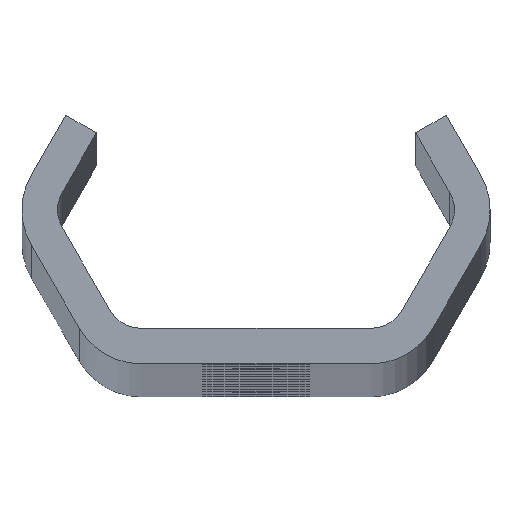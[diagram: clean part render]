
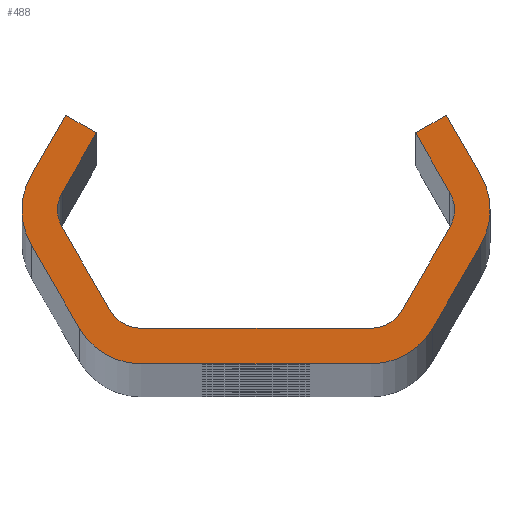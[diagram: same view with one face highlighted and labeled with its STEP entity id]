
A CAD part, top view. The second image highlights one B-rep face of the part: STEP entity #488.
In plain terms, the highlighted planar face has unit normal (0, 0, 1).
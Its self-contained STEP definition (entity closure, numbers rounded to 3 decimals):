
#488=ADVANCED_FACE('NONE',(#1334),#1335,.F.);
#1334=FACE_OUTER_BOUND('',#4210,.T.);
#1335=PLANE('',#4211);
#4210=EDGE_LOOP('',(#8490,#8491,#8492,#8493,#8494,#8495,#8496,#8497,#8498,#8499,#8500,#8501,#8502,#8503,#8504,#8505,#8506,#8507,#8508,#8509,#8510,#8511,#8512,#8513));
#4211=AXIS2_PLACEMENT_3D('',#8514,#8515,#8516);
#8490=ORIENTED_EDGE('',*,*,#11357,.T.);
#8491=ORIENTED_EDGE('',*,*,#11388,.T.);
#8492=ORIENTED_EDGE('',*,*,#11106,.T.);
#8493=ORIENTED_EDGE('',*,*,#11359,.T.);
#8494=ORIENTED_EDGE('',*,*,#11389,.T.);
#8495=ORIENTED_EDGE('',*,*,#11363,.T.);
#8496=ORIENTED_EDGE('',*,*,#11390,.T.);
#8497=ORIENTED_EDGE('',*,*,#11113,.T.);
#8498=ORIENTED_EDGE('',*,*,#11391,.T.);
#8499=ORIENTED_EDGE('',*,*,#10899,.T.);
#8500=ORIENTED_EDGE('',*,*,#11116,.T.);
#8501=ORIENTED_EDGE('',*,*,#11122,.T.);
#8502=ORIENTED_EDGE('',*,*,#11125,.T.);
#8503=ORIENTED_EDGE('',*,*,#11103,.T.);
#8504=ORIENTED_EDGE('',*,*,#11392,.T.);
#8505=ORIENTED_EDGE('',*,*,#11127,.T.);
#8506=ORIENTED_EDGE('',*,*,#11393,.T.);
#8507=ORIENTED_EDGE('',*,*,#11134,.T.);
#8508=ORIENTED_EDGE('',*,*,#11394,.T.);
#8509=ORIENTED_EDGE('',*,*,#11344,.T.);
#8510=ORIENTED_EDGE('',*,*,#11395,.T.);
#8511=ORIENTED_EDGE('',*,*,#10894,.T.);
#8512=ORIENTED_EDGE('',*,*,#11347,.T.);
#8513=ORIENTED_EDGE('',*,*,#11353,.T.);
#8514=CARTESIAN_POINT('',(0.0,0.0,1600.0));
#8515=DIRECTION('',(0.0,0.0,-1.0));
#8516=DIRECTION('',(0.0,-1.0,0.0));
#10894=EDGE_CURVE('NONE',#12156,#12160,#12162,.T.);
#10899=EDGE_CURVE('NONE',#12165,#12169,#12171,.T.);
#11103=EDGE_CURVE('NONE',#12538,#12536,#12539,.T.);
#11106=EDGE_CURVE('NONE',#12542,#12543,#12544,.T.);
#11113=EDGE_CURVE('NONE',#12556,#12554,#12557,.T.);
#11116=EDGE_CURVE('NONE',#12169,#12560,#12561,.T.);
#11122=EDGE_CURVE('NONE',#12560,#12568,#12570,.T.);
#11125=EDGE_CURVE('NONE',#12568,#12538,#12573,.T.);
#11127=EDGE_CURVE('NONE',#12575,#12576,#12577,.T.);
#11134=EDGE_CURVE('NONE',#12589,#12587,#12590,.T.);
#11344=EDGE_CURVE('NONE',#12978,#12976,#12979,.T.);
#11347=EDGE_CURVE('NONE',#12160,#12982,#12983,.T.);
#11353=EDGE_CURVE('NONE',#12982,#12990,#12992,.T.);
#11357=EDGE_CURVE('NONE',#12990,#12996,#12998,.T.);
#11359=EDGE_CURVE('NONE',#12543,#13000,#13001,.T.);
#11363=EDGE_CURVE('NONE',#13006,#13007,#13008,.T.);
#11388=EDGE_CURVE('NONE',#12996,#12542,#13035,.T.);
#11389=EDGE_CURVE('NONE',#13000,#13006,#13036,.T.);
#11390=EDGE_CURVE('NONE',#13007,#12556,#13037,.T.);
#11391=EDGE_CURVE('NONE',#12554,#12165,#13038,.T.);
#11392=EDGE_CURVE('NONE',#12536,#12575,#13039,.T.);
#11393=EDGE_CURVE('NONE',#12576,#12589,#13040,.T.);
#11394=EDGE_CURVE('NONE',#12587,#12978,#13041,.T.);
#11395=EDGE_CURVE('NONE',#12976,#12156,#13042,.T.);
#12156=VERTEX_POINT('',#14028);
#12160=VERTEX_POINT('NONE',#14033);
#12162=CIRCLE('',#14036,3.0);
#12165=VERTEX_POINT('',#14039);
#12169=VERTEX_POINT('NONE',#14044);
#12171=CIRCLE('',#14047,6.0);
#12536=VERTEX_POINT('NONE',#16202);
#12538=VERTEX_POINT('NONE',#16205);
#12539=CIRCLE('',#16206,3.0);
#12542=VERTEX_POINT('NONE',#16210);
#12543=VERTEX_POINT('NONE',#16211);
#12544=CIRCLE('',#16212,6.0);
#12554=VERTEX_POINT('NONE',#16225);
#12556=VERTEX_POINT('NONE',#16228);
#12557=LINE('',#16229,#16230);
#12560=VERTEX_POINT('NONE',#16234);
#12561=LINE('',#16235,#16236);
#12568=VERTEX_POINT('NONE',#16246);
#12570=LINE('',#16249,#16250);
#12573=LINE('',#16254,#16255);
#12575=VERTEX_POINT('NONE',#16257);
#12576=VERTEX_POINT('NONE',#16258);
#12577=LINE('',#16259,#16260);
#12587=VERTEX_POINT('NONE',#16274);
#12589=VERTEX_POINT('NONE',#16277);
#12590=LINE('',#16278,#16279);
#12976=VERTEX_POINT('NONE',#17667);
#12978=VERTEX_POINT('NONE',#17670);
#12979=LINE('',#17671,#17672);
#12982=VERTEX_POINT('NONE',#17676);
#12983=LINE('',#17677,#17678);
#12990=VERTEX_POINT('NONE',#17688);
#12992=LINE('',#17691,#17692);
#12996=VERTEX_POINT('NONE',#17697);
#12998=LINE('',#17700,#17701);
#13000=VERTEX_POINT('NONE',#17703);
#13001=LINE('',#17704,#17705);
#13006=VERTEX_POINT('NONE',#17712);
#13007=VERTEX_POINT('NONE',#17713);
#13008=LINE('',#17714,#17715);
#13035=CIRCLE('',#17745,6.0);
#13036=CIRCLE('',#17746,6.0);
#13037=CIRCLE('',#17747,6.0);
#13038=CIRCLE('',#17748,6.0);
#13039=CIRCLE('',#17749,3.0);
#13040=CIRCLE('',#17750,3.0);
#13041=CIRCLE('',#17751,3.0);
#13042=CIRCLE('',#17752,3.0);
#14028=CARTESIAN_POINT('',(-16.764,0.,1600.0));
#14033=CARTESIAN_POINT('',(-16.362,1.5,1600.0));
#14036=AXIS2_PLACEMENT_3D('',#20991,#20992,#20993);
#14039=CARTESIAN_POINT('',(19.764,0.,1600.0));
#14044=CARTESIAN_POINT('',(18.96,3.,1600.0));
#14047=AXIS2_PLACEMENT_3D('',#20999,#21000,#21001);
#16202=CARTESIAN_POINT('',(16.764,0.,1600.0));
#16205=CARTESIAN_POINT('',(16.362,1.5,1600.0));
#16206=AXIS2_PLACEMENT_3D('',#21206,#21207,#21208);
#16210=CARTESIAN_POINT('',(-19.764,0.,1600.0));
#16211=CARTESIAN_POINT('',(-18.96,-3.,1600.0));
#16212=AXIS2_PLACEMENT_3D('',#21210,#21211,#21212);
#16225=CARTESIAN_POINT('',(18.96,-3.,1600.0));
#16228=CARTESIAN_POINT('',(14.919,-10.,1600.0));
#16229=CARTESIAN_POINT('',(20.692,0.,1600.0));
#16230=VECTOR('',#21220,1000.0);
#16234=CARTESIAN_POINT('',(16.074,8.,1600.0));
#16235=CARTESIAN_POINT('',(16.074,8.,1600.0));
#16236=VECTOR('',#21222,1000.0);
#16246=CARTESIAN_POINT('',(13.475,6.5,1600.0));
#16249=CARTESIAN_POINT('',(13.475,6.5,1600.0));
#16250=VECTOR('',#21227,1000.0);
#16254=CARTESIAN_POINT('',(17.228,0.,1600.0));
#16255=VECTOR('',#21229,1000.0);
#16257=CARTESIAN_POINT('',(16.362,-1.5,1600.0));
#16258=CARTESIAN_POINT('',(12.321,-8.5,1600.0));
#16259=CARTESIAN_POINT('',(11.455,-10.0,1600.0));
#16260=VECTOR('',#21230,1000.0);
#16274=CARTESIAN_POINT('',(-9.723,-10.0,1600.0));
#16277=CARTESIAN_POINT('',(9.723,-10.0,1600.0));
#16278=CARTESIAN_POINT('',(-11.455,-10.0,1600.0));
#16279=VECTOR('',#21236,1000.0);
#17667=CARTESIAN_POINT('',(-16.362,-1.5,1600.0));
#17670=CARTESIAN_POINT('',(-12.321,-8.5,1600.0));
#17671=CARTESIAN_POINT('',(-17.228,0.,1600.0));
#17672=VECTOR('',#21465,1000.0);
#17676=CARTESIAN_POINT('',(-13.475,6.5,1600.0));
#17677=CARTESIAN_POINT('',(-13.475,6.5,1600.0));
#17678=VECTOR('',#21467,1000.0);
#17688=CARTESIAN_POINT('',(-16.074,8.,1600.0));
#17691=CARTESIAN_POINT('',(-13.475,6.5,1600.0));
#17692=VECTOR('',#21472,1000.0);
#17697=CARTESIAN_POINT('',(-18.96,3.,1600.0));
#17700=CARTESIAN_POINT('',(-16.074,8.,1600.0));
#17701=VECTOR('',#21475,1000.0);
#17703=CARTESIAN_POINT('',(-14.919,-10.,1600.0));
#17704=CARTESIAN_POINT('',(-20.692,0.,1600.0));
#17705=VECTOR('',#21476,1000.0);
#17712=CARTESIAN_POINT('',(-9.723,-13.0,1600.0));
#17713=CARTESIAN_POINT('',(9.723,-13.0,1600.0));
#17714=CARTESIAN_POINT('',(-13.187,-13.0,1600.0));
#17715=VECTOR('',#21479,1000.0);
#17745=AXIS2_PLACEMENT_3D('',#21543,#21544,#21545);
#17746=AXIS2_PLACEMENT_3D('',#21546,#21547,#21548);
#17747=AXIS2_PLACEMENT_3D('',#21549,#21550,#21551);
#17748=AXIS2_PLACEMENT_3D('',#21552,#21553,#21554);
#17749=AXIS2_PLACEMENT_3D('',#21555,#21556,#21557);
#17750=AXIS2_PLACEMENT_3D('',#21558,#21559,#21560);
#17751=AXIS2_PLACEMENT_3D('',#21561,#21562,#21563);
#17752=AXIS2_PLACEMENT_3D('',#21564,#21565,#21566);
#20991=CARTESIAN_POINT('',(-13.764,0.,1600.0));
#20992=DIRECTION('',(0.0,0.0,-1.0));
#20993=DIRECTION('',(-1.0,0.0,0.0));
#20999=CARTESIAN_POINT('',(13.764,0.,1600.0));
#21000=DIRECTION('',(0.0,0.0,1.0));
#21001=DIRECTION('',(-1.0,0.0,0.0));
#21206=CARTESIAN_POINT('',(13.764,0.,1600.0));
#21207=DIRECTION('',(0.0,0.0,-1.0));
#21208=DIRECTION('',(-1.0,0.0,0.0));
#21210=CARTESIAN_POINT('',(-13.764,0.,1600.0));
#21211=DIRECTION('',(0.0,0.0,1.0));
#21212=DIRECTION('',(-1.0,0.0,0.0));
#21220=DIRECTION('',(0.5,0.866,-0.0));
#21222=DIRECTION('',(-0.5,0.866,-0.0));
#21227=DIRECTION('',(-0.866,-0.5,-0.0));
#21229=DIRECTION('',(0.5,-0.866,-0.0));
#21230=DIRECTION('',(-0.5,-0.866,-0.0));
#21236=DIRECTION('',(-1.0,0.,-0.0));
#21465=DIRECTION('',(-0.5,0.866,-0.0));
#21467=DIRECTION('',(0.5,0.866,-0.0));
#21472=DIRECTION('',(-0.866,0.5,0.0));
#21475=DIRECTION('',(-0.5,-0.866,0.0));
#21476=DIRECTION('',(0.5,-0.866,0.0));
#21479=DIRECTION('',(1.0,0.0,0.0));
#21543=CARTESIAN_POINT('',(-13.764,0.,1600.0));
#21544=DIRECTION('',(0.0,0.0,1.0));
#21545=DIRECTION('',(-1.0,0.,0.0));
#21546=CARTESIAN_POINT('',(-9.723,-7.0,1600.0));
#21547=DIRECTION('',(0.0,0.0,1.0));
#21548=DIRECTION('',(-1.0,0.0,0.0));
#21549=CARTESIAN_POINT('',(9.723,-7.0,1600.0));
#21550=DIRECTION('',(0.0,0.0,1.0));
#21551=DIRECTION('',(-1.0,0.,0.0));
#21552=CARTESIAN_POINT('',(13.764,0.,1600.0));
#21553=DIRECTION('',(0.0,0.0,1.0));
#21554=DIRECTION('',(-1.0,0.0,0.0));
#21555=CARTESIAN_POINT('',(13.764,0.,1600.0));
#21556=DIRECTION('',(0.0,0.0,-1.0));
#21557=DIRECTION('',(-1.0,0.0,0.0));
#21558=CARTESIAN_POINT('',(9.723,-7.0,1600.0));
#21559=DIRECTION('',(0.0,0.0,-1.0));
#21560=DIRECTION('',(-1.0,0.0,0.0));
#21561=CARTESIAN_POINT('',(-9.723,-7.0,1600.0));
#21562=DIRECTION('',(0.0,0.0,-1.0));
#21563=DIRECTION('',(-1.0,0.0,0.0));
#21564=CARTESIAN_POINT('',(-13.764,0.,1600.0));
#21565=DIRECTION('',(0.0,0.0,-1.0));
#21566=DIRECTION('',(-1.0,0.0,0.0));
